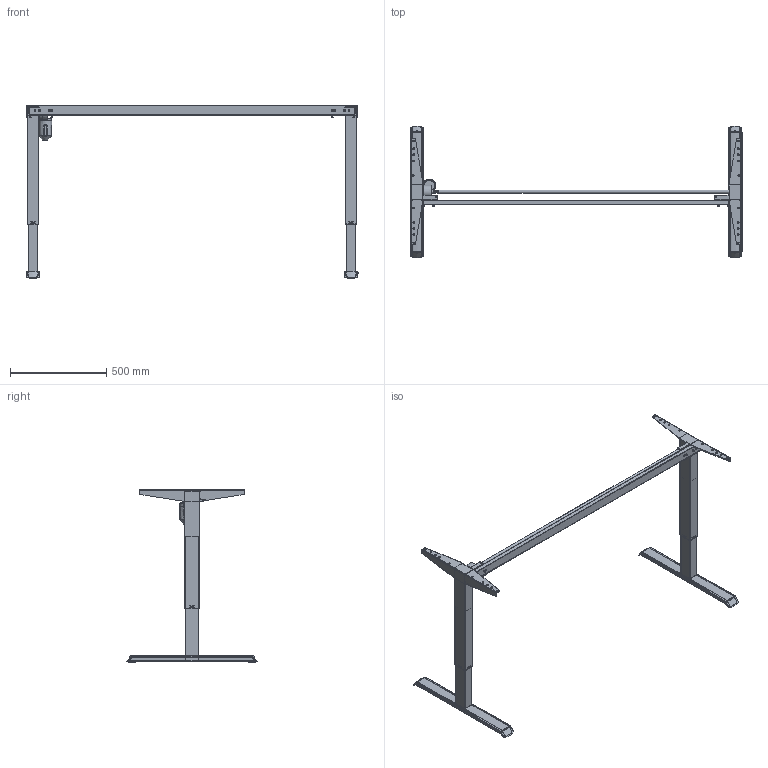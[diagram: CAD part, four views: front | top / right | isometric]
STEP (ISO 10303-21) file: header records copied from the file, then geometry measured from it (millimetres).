
FILE_DESCRIPTION (( 'STEP AP203' ), '1' );
FILE_NAME ('Tech-draw_501-33_XX172.STEP', '2019-09-25T10:16:52', ( '' ), ( '' ), 'SwSTEP 2.0', 'SolidWorks 2018', '' );
FILE_SCHEMA (( 'CONFIG_CONTROL_DESIGN' ));
Length unit declared in the file: millimetre
Products named in the file (27): 332570; 140860_silver1; 341800_silver; 140850_silver1; 149070_501-33 XS172; 144260_172; 352600; 344430_silver; 324520_silver; 140920_silver; 345610_shell view; 340560; 341220; 140910_silver; 348720_shell view; 345600; 345620_shell view; 340540_shell view; 345630_shell view; 140930_silver; 140950_silver1; 351320; 347910_172; Tech-draw_501-33_XX172; 347920_172; 340760; 344820_shell view
Assembly tree (44 placements, depth 6):
  Tech-draw_501-33_XX172
    149070_501-33 XS172
      347910_172
      144260_172
        347920_172
        340560
        341220
      140920_silver
        140860_silver1
          345610_shell view
          344820_shell view
          348720_shell view
        140930_silver
          140950_silver1
            345620_shell view
            345630_shell view
            351320
        324520_silver  x2
        341800_silver  x4
        344430_silver
        352600
      140910_silver
        140850_silver1
          345600
          344820_shell view
          340540_shell view
        140930_silver
          140950_silver1
            345620_shell view
            345630_shell view
            351320
        324520_silver  x2
        341800_silver  x4
      340760  x4
      332570  x4
Bounding box: 1726 x 683.9 x 898.46 mm (x, y, z)
Volume: 2513541.7 mm3; surface area: 2716769.7 mm2
Topology: 38 solids, 38 shells, 2758 faces, 7051 edges, 4399 vertices
Faces by surface type: plane 1435, cylinder 935, bspline 256, cone 69, torus 63
Full cylindrical faces by diameter (mm): 2.8 x4, 3 x2, 4.6 x4, 5 x4, 6 x10, 7 x8, 7.4 x4, 7.6 x4, 8 x12, 10 x8, 11.9 x2, 12 x1, 13 x2, 15 x4, 16 x2, 18 x1, 20 x2, 24 x1, 37.6 x8, 60 x1
Entity records: 72523 total; most frequent: CARTESIAN_POINT 31924, ORIENTED_EDGE 8058, DIRECTION 7389, EDGE_CURVE 4029, AXIS2_PLACEMENT_3D 2717, VERTEX_POINT 2607, LINE 1955, VECTOR 1955
